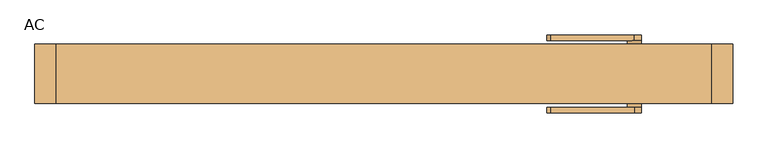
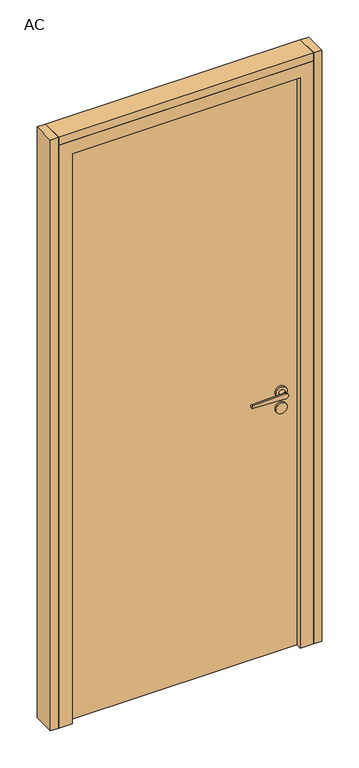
"""IFC4 building model written with IfcOpenShell, lengths in millimetres: door geometry, Mobiliário_Mobiliário de Escritório_Porta de Giro Cega - AC_Marelli : AC."""

from ifc_helpers import new_model, si_unit, point, frame, frame_2d, origin, origin_with_axes, place, context, project, spatial, polyline, circle_curve, trimmed, segment, composite_curve, outline, extrude, faceted_brep, source, transform, mapped, element, save


def ac_db78cb7f(model_context):
    return source(origin(), model_context, "Body", "SolidModel", [
        extrude(outline(polyline([(419.5, -21.0), (-419.5, -21.0), (-419.5, 21.0), (419.5, 21.0), (419.5, -21.0)])), frame((0.0, 0.0, 0.5), z_axis=(0.0, 0.0, 1.0), x_axis=(1.0, 0.0, 0.0)), (0.0, 0.0, 1.0), 2219.0),
        extrude(outline(polyline([(-500.0, -42.5), (-500.0, 42.5), (-470.0, 42.5), (-470.0, -42.5), (-500.0, -42.5)])), origin_with_axes(), (0.0, 0.0, 1.0), 2300.0),
        extrude(outline(polyline([(500.0, -42.5), (470.0, -42.5), (470.0, 42.5), (500.0, 42.5), (500.0, -42.5)])), origin_with_axes(), (0.0, 0.0, 1.0), 2300.0),
        extrude(outline(polyline([(470.0, -42.5), (-470.0, -42.5), (-470.0, 42.5), (470.0, 42.5), (470.0, -42.5)])), frame((0.0, 0.0, 2270.0), z_axis=(0.0, 0.0, 1.0), x_axis=(1.0, 0.0, 0.0)), (0.0, 0.0, 1.0), 30.0),
        faceted_brep([(-470.0, 42.5, 2270.0), (470.0, 42.5, 2270.0), (470.0, 42.5, 0.0), (390.0, 42.5, 0.0), (390.0, 42.5, 2190.0), (-390.0, 42.5, 2190.0), (-390.0, 42.5, 0.0), (-470.0, 42.5, 0.0), (-470.0, -42.5, 0.0), (-470.0, -42.5, 2270.0), (-390.0, 21.5, 0.0), (-420.0, 21.5, 0.0), (-420.0, -42.5, 0.0), (470.0, -42.5, 0.0), (420.0, -42.5, 0.0), (420.0, 21.5, 0.0), (390.0, 21.5, 0.0), (-390.0, 21.5, 2190.0), (390.0, 21.5, 2190.0), (470.0, -42.5, 2270.0), (420.0, 21.5, 2220.0), (-420.0, 21.5, 2220.0), (-420.0, -42.5, 2220.0), (420.0, -42.5, 2220.0)], [[[0, 1, 2, 3, 4, 5, 6, 7]], [[0, 7, 8, 9]], [[7, 6, 10, 11, 12, 8]], [[2, 13, 14, 15, 16, 3]], [[6, 5, 17, 10]], [[16, 18, 4, 3]], [[19, 13, 2, 1]], [[18, 16, 15, 20, 21, 11, 10, 17]], [[21, 22, 12, 11]], [[14, 23, 20, 15]], [[23, 14, 13, 19, 9, 8, 12, 22]], [[4, 18, 17, 5]], [[22, 21, 20, 23]], [[19, 1, 0, 9]]]),
        extrude(outline(composite_curve([segment(trimmed(circle_curve(frame_2d((1010.0, 359.2)), 20.8), [point((1010.0, 338.4))], [point((1010.0, 380.0))], False, "CARTESIAN"), True, "CONTINUOUS"), segment(trimmed(circle_curve(frame_2d((1010.0, 359.2)), 20.8), [point((1010.0, 380.0))], [point((1010.0, 338.4))], False, "CARTESIAN"), True, "CONTINUOUS")], self_intersect=False)), frame((0.0, 21.0, 0.0), z_axis=(0.0, 1.0, 0.0), x_axis=(0.0, 0.0, 1.0)), (0.0, 0.0, 1.0), 8.0),
        extrude(outline(composite_curve([segment(trimmed(circle_curve(frame_2d((947.58, 359.2)), 20.8), [point((947.58, 338.4))], [point((947.58, 380.0))], False, "CARTESIAN"), True, "CONTINUOUS"), segment(trimmed(circle_curve(frame_2d((947.58, 359.2)), 20.8), [point((947.58, 380.0))], [point((947.58, 338.4))], False, "CARTESIAN"), True, "CONTINUOUS")], self_intersect=False)), frame((0.0, 21.0, 0.0), z_axis=(0.0, 1.0, 0.0), x_axis=(0.0, 0.0, 1.0)), (0.0, 0.0, 1.0), 8.0),
        extrude(outline(composite_curve([segment(trimmed(circle_curve(frame_2d((1010.0, 359.2)), 10.0), [point((1000.0, 359.2))], [point((1020.0, 359.2))], False, "CARTESIAN"), True, "CONTINUOUS"), segment(polyline([(1020.0, 359.2), (1014.970724, 239.0650676)]), True, "CONTINUOUS"), segment(trimmed(circle_curve(frame_2d((1010.0145906, 239.0650676)), 4.9561334), [point((1014.970724, 239.0650676))], [point((1005.0584573, 239.0650676))], False, "CARTESIAN"), True, "CONTINUOUS"), segment(polyline([(1005.0584573, 239.0650676), (1000.0, 359.2)]), True, "CONTINUOUS")], self_intersect=False)), frame((0.0, -56.0, 0.0), z_axis=(0.0, 1.0, 0.0), x_axis=(0.0, 0.0, 1.0)), (0.0, 0.0, 1.0), 8.0),
        extrude(outline(composite_curve([segment(trimmed(circle_curve(frame_2d((1010.0, 359.2)), 20.8), [point((1010.0, 338.4))], [point((1010.0, 380.0))], False, "CARTESIAN"), True, "CONTINUOUS"), segment(trimmed(circle_curve(frame_2d((1010.0, 359.2)), 20.8), [point((1010.0, 380.0))], [point((1010.0, 338.4))], False, "CARTESIAN"), True, "CONTINUOUS")], self_intersect=False)), frame((0.0, -29.0, 0.0), z_axis=(0.0, 1.0, 0.0), x_axis=(0.0, 0.0, 1.0)), (0.0, 0.0, 1.0), 8.0),
        extrude(outline(composite_curve([segment(trimmed(circle_curve(frame_2d((947.58, 359.2)), 20.8), [point((947.58, 338.4))], [point((947.58, 380.0))], False, "CARTESIAN"), True, "CONTINUOUS"), segment(trimmed(circle_curve(frame_2d((947.58, 359.2)), 20.8), [point((947.58, 380.0))], [point((947.58, 338.4))], False, "CARTESIAN"), True, "CONTINUOUS")], self_intersect=False)), frame((0.0, -29.0, 0.0), z_axis=(0.0, 1.0, 0.0), x_axis=(0.0, 0.0, 1.0)), (0.0, 0.0, 1.0), 8.0),
        extrude(outline(composite_curve([segment(trimmed(circle_curve(frame_2d((1010.0, 359.2)), 10.0), [point((1010.0, 349.2))], [point((1010.0, 369.2))], False, "CARTESIAN"), True, "CONTINUOUS"), segment(trimmed(circle_curve(frame_2d((1010.0, 359.2)), 10.0), [point((1010.0, 369.2))], [point((1010.0, 349.2))], False, "CARTESIAN"), True, "CONTINUOUS")], self_intersect=False)), frame((0.0, 29.0, 0.0), z_axis=(0.0, 1.0, 0.0), x_axis=(0.0, 0.0, 1.0)), (0.0, 0.0, 1.0), 19.0),
        extrude(outline(composite_curve([segment(trimmed(circle_curve(frame_2d((1010.0, 359.2)), 10.0), [point((1010.0, 349.2))], [point((1010.0, 369.2))], False, "CARTESIAN"), True, "CONTINUOUS"), segment(trimmed(circle_curve(frame_2d((1010.0, 359.2)), 10.0), [point((1010.0, 369.2))], [point((1010.0, 349.2))], False, "CARTESIAN"), True, "CONTINUOUS")], self_intersect=False)), frame((0.0, -48.0, 0.0), z_axis=(0.0, 1.0, 0.0), x_axis=(0.0, 0.0, 1.0)), (0.0, 0.0, 1.0), 19.0),
        extrude(outline(composite_curve([segment(trimmed(circle_curve(frame_2d((1010.0145906, 239.0650676)), 4.9561334), [point((1014.970724, 239.0650676))], [point((1005.0584573, 239.0650676))], False, "CARTESIAN"), True, "CONTINUOUS"), segment(polyline([(1005.0584573, 239.0650676), (1000.0, 359.2)]), True, "CONTINUOUS"), segment(trimmed(circle_curve(frame_2d((1010.0, 359.2)), 10.0), [point((1000.0, 359.2))], [point((1020.0, 359.2))], False, "CARTESIAN"), True, "CONTINUOUS"), segment(polyline([(1020.0, 359.2), (1014.970724, 239.0650676)]), True, "CONTINUOUS")], self_intersect=False)), frame((0.0, 48.0, 0.0), z_axis=(0.0, 1.0, 0.0), x_axis=(0.0, 0.0, 1.0)), (0.0, 0.0, 1.0), 8.0),
    ])


if __name__ == "__main__":
    model = new_model("IFC4")
    model_context = context("Model", 3, world=origin())
    ifc_project = project(units=[si_unit("LENGTHUNIT", "METRE", prefix="MILLI")], contexts=[model_context])
    site = spatial("IfcSite", under=ifc_project)
    building = spatial("IfcBuilding", under=site)
    placement = place(None, origin())
    ac_shape = ac_db78cb7f(model_context)
    element("IfcDoor", 1, ObjectType="Mobiliário_Mobiliário de Escritório_Porta de Giro Cega - AC_Marelli : AC", at=placement, inside=building, context=model_context, shape_type="MappedRepresentation", body=[
        mapped(ac_shape, transform((0.0, 0.0, 0.0), x_axis=(1.0, 0.0, 0.0), y_axis=(0.0, 1.0, 0.0), z_axis=(0.0, 0.0, 1.0))),
    ])
    save(model, "model.ifc")
